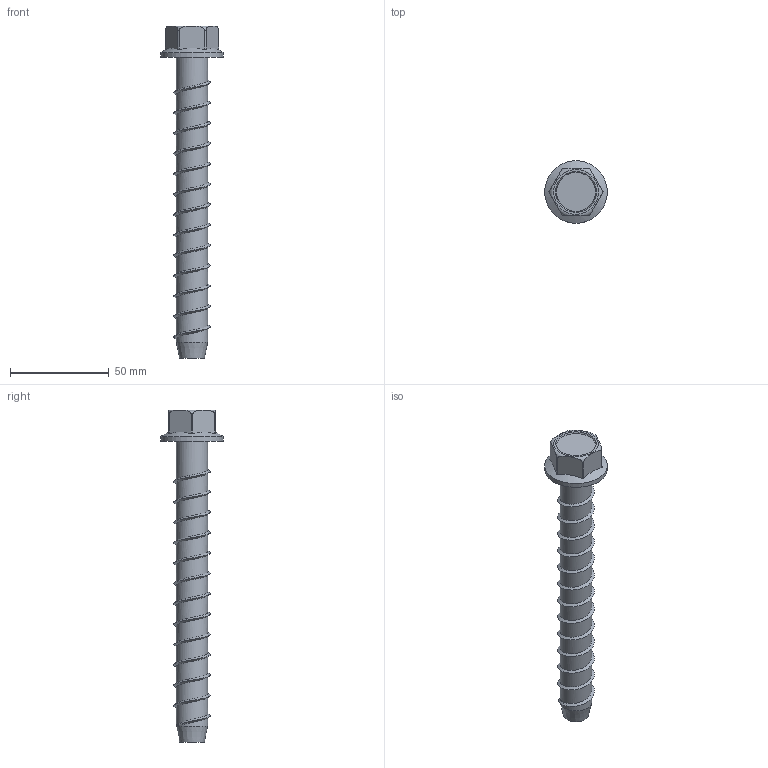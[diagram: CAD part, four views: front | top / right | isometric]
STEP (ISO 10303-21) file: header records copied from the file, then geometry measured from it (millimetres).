
FILE_DESCRIPTION(/* description */ (''),/* implementation_level */ '2;1');
FILE_NAME(/* name */ 'C:\001_Work\Designs\SAST\SAST-0.625 x 6.000.stp',/* time_stamp */ '2015-10-10T17:52:33-04:00',/* author */ ('rramoutar'),/* organization */ ('Mason Industries Inc.'),/* preprocessor_version */ 'ST-DEVELOPER v15.6',/* originating_system */ 'Autodesk Inventor 2015',/* authorisation */ '');
FILE_SCHEMA (('AUTOMOTIVE_DESIGN { 1 0 10303 214 3 1 1 }'));
Length unit declared in the file: inch
Products named in the file (1): SAST-0.625 x 6.000
Bounding box: 31.75 x 31.75 x 168.28 mm (x, y, z)
Volume: 39121.4 mm3; surface area: 11529.9 mm2
Topology: 1 solids, 1 shells, 48 faces, 119 edges, 75 vertices
Faces by surface type: cylinder 20, plane 10, bspline 8, torus 7, cone 3
Full cylindrical faces by diameter (mm): 15.875 x13, 31.75 x1
Entity records: 3349 total; most frequent: CARTESIAN_POINT 2624, ORIENTED_EDGE 150, DIRECTION 124, EDGE_CURVE 75, AXIS2_PLACEMENT_3D 53, VERTEX_POINT 50, EDGE_LOOP 45, FACE_OUTER_BOUND 36
